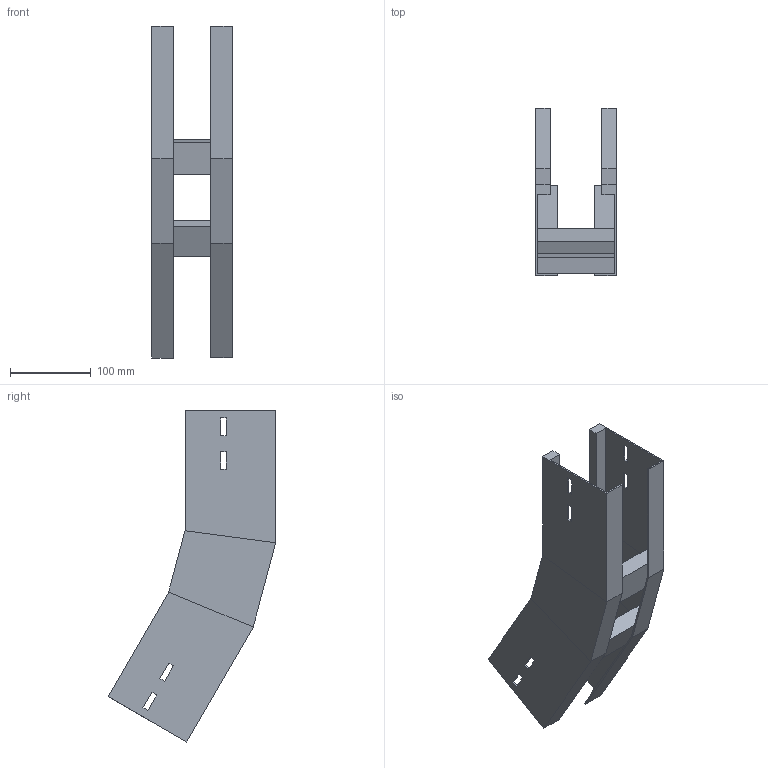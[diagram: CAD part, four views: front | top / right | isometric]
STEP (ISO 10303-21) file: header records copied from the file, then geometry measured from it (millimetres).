
FILE_DESCRIPTION (( 'STEP AP214' ), '1' );
FILE_NAME ('A2X32B3J100XX.step', '2025-03-20T09:59:05', ( '' ), ( '' ), 'SwSTEP 2.0', 'SolidWorks 2023', '' );
FILE_SCHEMA (( 'AUTOMOTIVE_DESIGN' ));
Length unit declared in the file: millimetre
Products named in the file (3): A2X32B3J100XX; LONGH.SALITA_30°_H112.5_R300; TRAVERSINO_100
Assembly tree (4 placements, depth 2):
  A2X32B3J100XX
    LONGH.SALITA_30°_H112.5_R300  x2
    TRAVERSINO_100  x2
Bounding box: 100 x 207.73 x 411.66 mm (x, y, z)
Volume: 526668.9 mm3; surface area: 281658 mm2
Topology: 4 solids, 4 shells, 96 faces, 232 edges, 144 vertices
Faces by surface type: plane 96
Entity records: 1472 total; most frequent: CARTESIAN_POINT 243, ORIENTED_EDGE 232, DIRECTION 226, EDGE_CURVE 116, LINE 116, VECTOR 116, VERTEX_POINT 72, EDGE_LOOP 56
